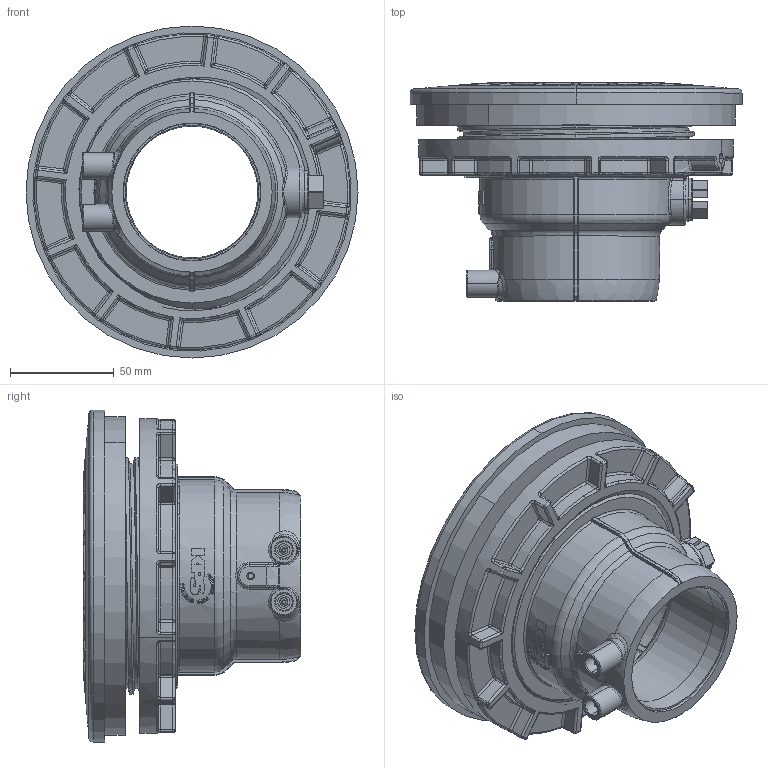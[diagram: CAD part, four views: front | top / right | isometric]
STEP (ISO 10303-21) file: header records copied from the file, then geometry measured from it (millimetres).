
FILE_DESCRIPTION (( 'STEP AP203' ), '1' );
FILE_NAME ('KP_TM75-63SC04.STEP', '2012-01-18T12:32:57', ( '' ), ( '' ), 'SwSTEP 2.0', 'SolidWorks 2012', '' );
FILE_SCHEMA (( 'CONFIG_CONTROL_DESIGN' ));
Products named in the file (1): KP_TM75-63SC04
Bounding box: 160 x 105.04 x 160 mm (x, y, z)
Volume: 581826.3 mm3; surface area: 163166.8 mm2
Topology: 2 solids, 8 shells, 1706 faces, 4240 edges, 2469 vertices
Faces by surface type: bspline 524, plane 457, cylinder 361, torus 181, sphere 96, cone 87
Entity records: 72140 total; most frequent: CARTESIAN_POINT 37389, ORIENTED_EDGE 8184, DIRECTION 6035, EDGE_CURVE 4092, VERTEX_POINT 2467, AXIS2_PLACEMENT_3D 2405, EDGE_LOOP 1785, FACE_OUTER_BOUND 1706
